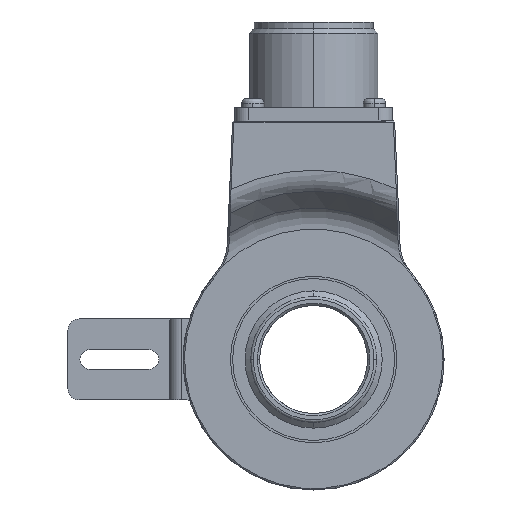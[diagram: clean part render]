
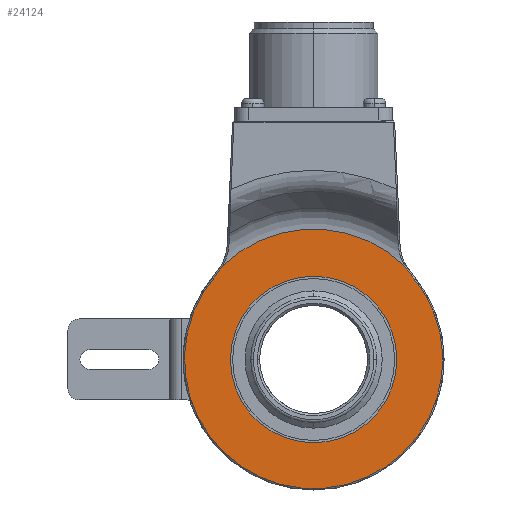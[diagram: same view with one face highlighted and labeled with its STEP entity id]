
A CAD part, left-side view. The second image highlights one B-rep face of the part: STEP entity #24124.
In plain terms, the highlighted planar face has unit normal (-1, 0, 0).
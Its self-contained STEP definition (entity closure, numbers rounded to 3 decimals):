
#457 = AXIS2_PLACEMENT_3D ( 'NONE', #13493, #19403, #7716 ) ;
#745 = CARTESIAN_POINT ( 'NONE',  ( -27., -21.484, 19.029 ) ) ;
#850 = VERTEX_POINT ( 'NONE', #21568 ) ;
#977 = ORIENTED_EDGE ( 'NONE', *, *, #24411, .T. ) ;
#1671 = VERTEX_POINT ( 'NONE', #745 ) ;
#1700 = DIRECTION ( 'NONE',  ( 0., 0., -1. ) ) ;
#1883 = CIRCLE ( 'NONE', #22765, 18.5 ) ;
#2070 = EDGE_CURVE ( 'NONE', #23249, #24430, #7429, .T. ) ;
#2528 = DIRECTION ( 'NONE',  ( -1., 0., 0. ) ) ;
#4035 = CARTESIAN_POINT ( 'NONE',  ( -27., 0., 18.5 ) ) ;
#4656 = AXIS2_PLACEMENT_3D ( 'NONE', #19311, #7744, #13391 ) ;
#5849 = FACE_OUTER_BOUND ( 'NONE', #6126, .T. ) ;
#6126 = EDGE_LOOP ( 'NONE', ( #977, #13316, #20919, #16091 ) ) ;
#7429 = CIRCLE ( 'NONE', #10682, 10.3 ) ;
#7702 = EDGE_LOOP ( 'NONE', ( #14128, #18840 ) ) ;
#7716 = DIRECTION ( 'NONE',  ( 0., 0., -1. ) ) ;
#7744 = DIRECTION ( 'NONE',  ( -1., 0., 0. ) ) ;
#9050 = DIRECTION ( 'NONE',  ( -1., 0., 0. ) ) ;
#9165 = AXIS2_PLACEMENT_3D ( 'NONE', #22776, #9050, #10853 ) ;
#9626 = CARTESIAN_POINT ( 'NONE',  ( -27., 20.24, 20.769 ) ) ;
#10120 = AXIS2_PLACEMENT_3D ( 'NONE', #19340, #23411, #24955 ) ;
#10530 = VERTEX_POINT ( 'NONE', #14494 ) ;
#10682 = AXIS2_PLACEMENT_3D ( 'NONE', #12496, #14955, #16867 ) ;
#10853 = DIRECTION ( 'NONE',  ( 0., 0., -1. ) ) ;
#11791 = EDGE_CURVE ( 'NONE', #1671, #10530, #22977, .T. ) ;
#12411 = CIRCLE ( 'NONE', #4656, 28.7 ) ;
#12496 = CARTESIAN_POINT ( 'NONE',  ( -27., 29.195, 25.859 ) ) ;
#13316 = ORIENTED_EDGE ( 'NONE', *, *, #11791, .T. ) ;
#13391 = DIRECTION ( 'NONE',  ( 0., 0., -1. ) ) ;
#13493 = CARTESIAN_POINT ( 'NONE',  ( -27., -29.195, 25.859 ) ) ;
#14128 = ORIENTED_EDGE ( 'NONE', *, *, #22232, .F. ) ;
#14252 = VERTEX_POINT ( 'NONE', #4035 ) ;
#14494 = CARTESIAN_POINT ( 'NONE',  ( -27., -20.24, 20.769 ) ) ;
#14955 = DIRECTION ( 'NONE',  ( 1., 0., 0. ) ) ;
#16091 = ORIENTED_EDGE ( 'NONE', *, *, #2070, .T. ) ;
#16251 = DIRECTION ( 'NONE',  ( 0., 0., -1. ) ) ;
#16447 = EDGE_CURVE ( 'NONE', #14252, #850, #1883, .T. ) ;
#16867 = DIRECTION ( 'NONE',  ( 0., 0., -1. ) ) ;
#17156 = FACE_BOUND ( 'NONE', #7702, .T. ) ;
#17292 = PLANE ( 'NONE',  #10120 ) ;
#18103 = EDGE_CURVE ( 'NONE', #10530, #23249, #18201, .T. ) ;
#18201 = CIRCLE ( 'NONE', #9165, 29. ) ;
#18840 = ORIENTED_EDGE ( 'NONE', *, *, #16447, .F. ) ;
#18896 = DIRECTION ( 'NONE',  ( -1., 0., 0. ) ) ;
#19311 = CARTESIAN_POINT ( 'NONE',  ( -27., 0., 0. ) ) ;
#19340 = CARTESIAN_POINT ( 'NONE',  ( -27., 0., 0. ) ) ;
#19403 = DIRECTION ( 'NONE',  ( 1., 0., 0. ) ) ;
#20103 = CARTESIAN_POINT ( 'NONE',  ( -27., 0., 0. ) ) ;
#20919 = ORIENTED_EDGE ( 'NONE', *, *, #18103, .T. ) ;
#21568 = CARTESIAN_POINT ( 'NONE',  ( -27., 0., -18.5 ) ) ;
#22232 = EDGE_CURVE ( 'NONE', #850, #14252, #23905, .T. ) ;
#22729 = CARTESIAN_POINT ( 'NONE',  ( -27., 0., 0. ) ) ;
#22765 = AXIS2_PLACEMENT_3D ( 'NONE', #22729, #18896, #1700 ) ;
#22776 = CARTESIAN_POINT ( 'NONE',  ( -27., 0., 0. ) ) ;
#22977 = CIRCLE ( 'NONE', #457, 10.3 ) ;
#23012 = CARTESIAN_POINT ( 'NONE',  ( -27., 21.484, 19.029 ) ) ;
#23249 = VERTEX_POINT ( 'NONE', #9626 ) ;
#23411 = DIRECTION ( 'NONE',  ( -1., 0., 0. ) ) ;
#23905 = CIRCLE ( 'NONE', #24311, 18.5 ) ;
#24124 = ADVANCED_FACE ( 'NONE', ( #17156, #5849 ), #17292, .T. ) ;
#24311 = AXIS2_PLACEMENT_3D ( 'NONE', #20103, #2528, #16251 ) ;
#24411 = EDGE_CURVE ( 'NONE', #24430, #1671, #12411, .T. ) ;
#24430 = VERTEX_POINT ( 'NONE', #23012 ) ;
#24955 = DIRECTION ( 'NONE',  ( 0., 0., -1. ) ) ;
